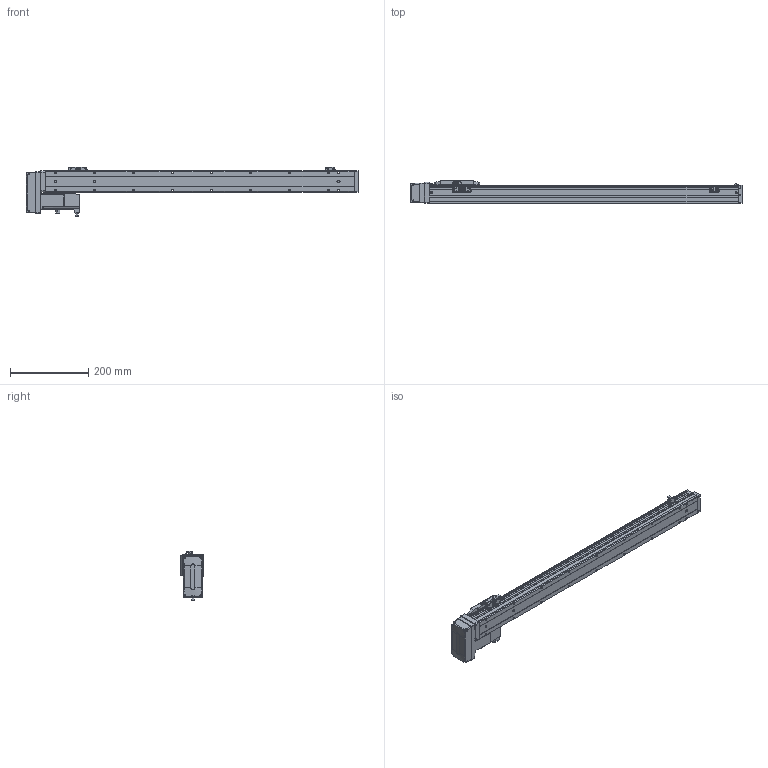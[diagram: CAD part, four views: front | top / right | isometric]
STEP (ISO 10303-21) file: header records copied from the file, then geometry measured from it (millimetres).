
FILE_DESCRIPTION (( 'STEP AP203' ), '1' );
FILE_NAME ('CTH5-L10-S650-BR-C10(¼ò).STEP', '2023-02-04T02:27:46', ( '' ), ( '' ), 'SwSTEP 2.0', 'SolidWorks 2018', '' );
FILE_SCHEMA (( 'CONFIG_CONTROL_DESIGN' ));
Length unit declared in the file: millimetre
Products named in the file (22): CTH5耜晚蹟隊; 内六角圆柱头螺钉M3-2; CTH100W假蚾啣; 嫖萇羲壽郪磁1; hex nuts, style 1-grades ab gb_GB_FASTENER_NUT_SNAB1 M3-N; CTH5菁釱-L790; 葩璃 蚾饜极16^CTH5-L10-S650-BR-C10(潠); CTH5-BL-T10_body5; CTH5覜茼え; CTH5-L10-S650-BR-C10(潠); 葩璃 蚾饜极13^CTH8-L10-S50-BM-C40(潠)1; CTH嫖萇羲壽假蚾啣; CTH5耜晚蹟隊-1; CTH5賑怢; CTH5綴耜啣; CTH5耜蚾蟀諉啣(潠); PM-Y45; M3｡｣; 100W萇儂; CTH5ヶ耜啣(潠); CTH5耜蚾欶; T10-p1
Assembly tree (37 placements, depth 4):
  CTH5-L10-S650-BR-C10(潠)
    CTH5綴耜啣
    CTH5賑怢
    CTH5ヶ耜啣(潠)
    CTH5菁釱-L790
    CTH5耜晚蹟隊  x2
    嫖萇羲壽郪磁1  x2
      CTH嫖萇羲壽假蚾啣
      PM-Y45
      M3｡｣
      内六角圆柱头螺钉M3-2
      hex nuts, style 1-grades ab gb_GB_FASTENER_NUT_SNAB1 M3-N
    CTH5覜茼え
    葩璃 蚾饜极13^CTH8-L10-S50-BM-C40(潠)1
      CTH嫖萇羲壽假蚾啣
      PM-Y45
      内六角圆柱头螺钉M3-2  x2
      M3｡｣  x2
      hex nuts, style 1-grades ab gb_GB_FASTENER_NUT_SNAB1 M3-N  x2
    CTH5耜晚蹟隊-1  x4
    葩璃 蚾饜极16^CTH5-L10-S650-BR-C10(潠)
      CTH5耜蚾蟀諉啣(潠)
      CTH5耜蚾欶
        CTH5-BL-T10_body5
      100W萇儂
        T10-p1
      CTH100W假蚾啣
Bounding box: 850 x 60 x 126.31 mm (x, y, z)
Volume: 2074970.6 mm3; surface area: 291612.9 mm2
Topology: 39 solids, 39 shells, 1631 faces, 4101 edges, 2644 vertices
Faces by surface type: plane 890, cylinder 476, cone 207, torus 40, bspline 18
Entity records: 38275 total; most frequent: CARTESIAN_POINT 7092, DIRECTION 6065, ORIENTED_EDGE 5826, EDGE_CURVE 2913, AXIS2_PLACEMENT_3D 2096, VECTOR 1873, LINE 1873, VERTEX_POINT 1872
